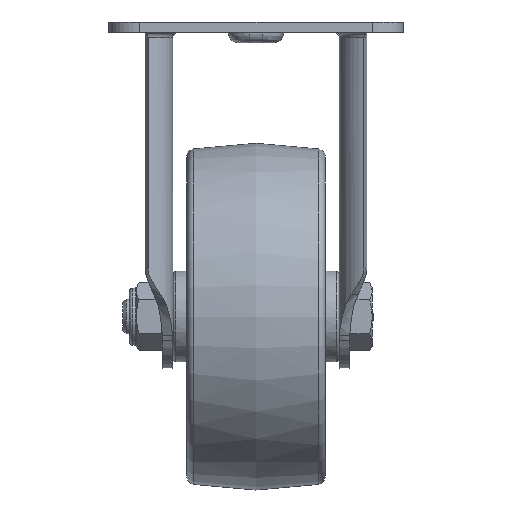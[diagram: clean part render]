
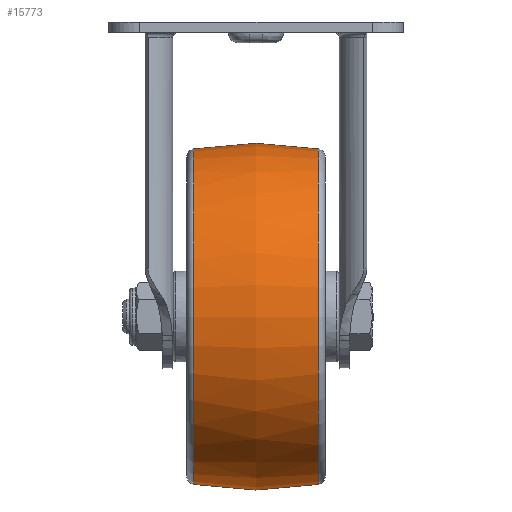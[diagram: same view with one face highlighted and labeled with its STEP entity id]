
A CAD part, left-side view. The second image highlights one B-rep face of the part: STEP entity #15773.
In plain terms, the highlighted free-form (B-spline) face has degree [2, 2] with [3, 9] control points.
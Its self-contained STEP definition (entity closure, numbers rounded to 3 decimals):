
#106=(
BOUNDED_SURFACE()
B_SPLINE_SURFACE(2,2,((#23691,#23692,#23693,#23694,#23695,#23696,#23697,
#23698,#23699),(#23700,#23701,#23702,#23703,#23704,#23705,#23706,#23707,
#23708),(#23709,#23710,#23711,#23712,#23713,#23714,#23715,#23716,#23717)),
 .UNSPECIFIED.,.F.,.T.,.F.)
B_SPLINE_SURFACE_WITH_KNOTS((3,3),(3,2,2,2,3),(-0.18,0.18),
(-3.142,-1.571,0.,1.571,3.142),
 .UNSPECIFIED.)
GEOMETRIC_REPRESENTATION_ITEM()
RATIONAL_B_SPLINE_SURFACE(((1.,0.707,1.,0.707,1.,
0.707,1.,0.707,1.),(0.984,0.696,
0.984,0.696,0.984,0.696,
0.984,0.696,0.984),(1.,0.707,
1.,0.707,1.,0.707,1.,0.707,1.)))
REPRESENTATION_ITEM('')
SURFACE()
);
#174=CIRCLE('',#16521,48.376);
#176=CIRCLE('',#16523,48.376);
#177=CIRCLE('',#16524,100.);
#1897=FACE_OUTER_BOUND('',#2823,.T.);
#2823=EDGE_LOOP('',(#12450,#12451,#12452,#12453));
#6999=VERTEX_POINT('',#23688);
#7000=VERTEX_POINT('',#23718);
#8942=EDGE_CURVE('',#6999,#6999,#174,.T.);
#8944=EDGE_CURVE('',#7000,#7000,#176,.T.);
#8945=EDGE_CURVE('',#7000,#6999,#177,.T.);
#12450=ORIENTED_EDGE('',*,*,#8944,.F.);
#12451=ORIENTED_EDGE('',*,*,#8945,.T.);
#12452=ORIENTED_EDGE('',*,*,#8942,.T.);
#12453=ORIENTED_EDGE('',*,*,#8945,.F.);
#15773=ADVANCED_FACE('',(#1897),#106,.F.);
#16521=AXIS2_PLACEMENT_3D('',#23689,#18268,#18269);
#16523=AXIS2_PLACEMENT_3D('',#23719,#18272,#18273);
#16524=AXIS2_PLACEMENT_3D('',#23720,#18274,#18275);
#18268=DIRECTION('center_axis',(0.,-1.,0.));
#18269=DIRECTION('ref_axis',(-1.,0.,0.));
#18272=DIRECTION('center_axis',(0.,-1.,0.));
#18273=DIRECTION('ref_axis',(-1.,0.,0.));
#18274=DIRECTION('center_axis',(0.,0.,1.));
#18275=DIRECTION('ref_axis',(1.,0.,0.));
#23688=CARTESIAN_POINT('',(48.376,17.949,-85.));
#23689=CARTESIAN_POINT('Origin',(0.,17.949,
-85.));
#23691=CARTESIAN_POINT('Ctrl Pts',(48.376,17.949,-85.));
#23692=CARTESIAN_POINT('Ctrl Pts',(48.376,17.949,-36.624));
#23693=CARTESIAN_POINT('Ctrl Pts',(0.,17.949,
-36.624));
#23694=CARTESIAN_POINT('Ctrl Pts',(-48.376,17.949,-36.624));
#23695=CARTESIAN_POINT('Ctrl Pts',(-48.376,17.949,-85.));
#23696=CARTESIAN_POINT('Ctrl Pts',(-48.376,17.949,-133.376));
#23697=CARTESIAN_POINT('Ctrl Pts',(0.,17.949,
-133.376));
#23698=CARTESIAN_POINT('Ctrl Pts',(48.376,17.949,-133.376));
#23699=CARTESIAN_POINT('Ctrl Pts',(48.376,17.949,-85.));
#23700=CARTESIAN_POINT('Ctrl Pts',(51.651,0.,
-85.));
#23701=CARTESIAN_POINT('Ctrl Pts',(51.651,0.,
-33.349));
#23702=CARTESIAN_POINT('Ctrl Pts',(0.,0.,
-33.349));
#23703=CARTESIAN_POINT('Ctrl Pts',(-51.651,0.,
-33.349));
#23704=CARTESIAN_POINT('Ctrl Pts',(-51.651,0.,
-85.));
#23705=CARTESIAN_POINT('Ctrl Pts',(-51.651,0.,
-136.651));
#23706=CARTESIAN_POINT('Ctrl Pts',(0.,0.,
-136.651));
#23707=CARTESIAN_POINT('Ctrl Pts',(51.651,0.,
-136.651));
#23708=CARTESIAN_POINT('Ctrl Pts',(51.651,0.,
-85.));
#23709=CARTESIAN_POINT('Ctrl Pts',(48.376,-17.949,-85.));
#23710=CARTESIAN_POINT('Ctrl Pts',(48.376,-17.949,-36.624));
#23711=CARTESIAN_POINT('Ctrl Pts',(0.,-17.949,
-36.624));
#23712=CARTESIAN_POINT('Ctrl Pts',(-48.376,-17.949,
-36.624));
#23713=CARTESIAN_POINT('Ctrl Pts',(-48.376,-17.949,
-85.));
#23714=CARTESIAN_POINT('Ctrl Pts',(-48.376,-17.949,
-133.376));
#23715=CARTESIAN_POINT('Ctrl Pts',(0.,-17.949,
-133.376));
#23716=CARTESIAN_POINT('Ctrl Pts',(48.376,-17.949,-133.376));
#23717=CARTESIAN_POINT('Ctrl Pts',(48.376,-17.949,-85.));
#23718=CARTESIAN_POINT('',(48.376,-17.949,-85.));
#23719=CARTESIAN_POINT('Origin',(0.,-17.949,
-85.));
#23720=CARTESIAN_POINT('Origin',(-50.,0.,
-85.));
